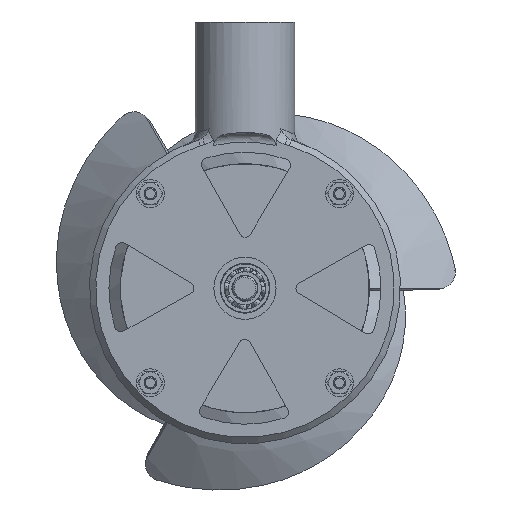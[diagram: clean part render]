
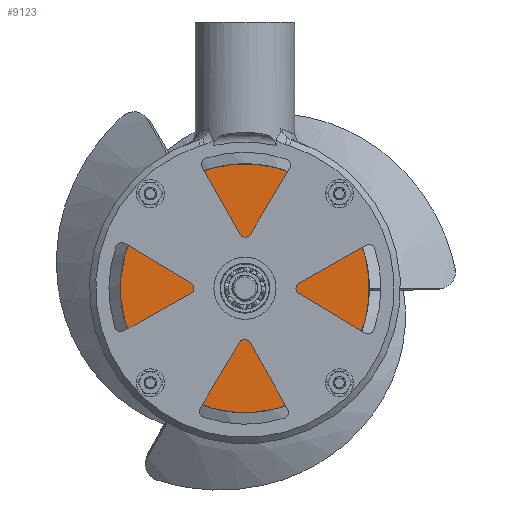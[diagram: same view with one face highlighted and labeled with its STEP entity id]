
A CAD part, front view. The second image highlights one B-rep face of the part: STEP entity #9123.
In plain terms, the highlighted planar face has unit normal (0, -1, 0).
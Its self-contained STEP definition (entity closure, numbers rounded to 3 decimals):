
#617=FACE_BOUND('',#1990,.T.);
#805=PLANE('',#10098);
#1394=FACE_OUTER_BOUND('',#1989,.T.);
#1989=EDGE_LOOP('',(#7841));
#1990=EDGE_LOOP('',(#7842));
#2677=CIRCLE('',#10041,8.);
#2705=CIRCLE('',#10099,40.);
#4542=VERTEX_POINT('',#18835);
#4593=VERTEX_POINT('',#19257);
#5638=EDGE_CURVE('',#4542,#4542,#2677,.T.);
#5719=EDGE_CURVE('',#4593,#4593,#2705,.T.);
#7841=ORIENTED_EDGE('',*,*,#5719,.T.);
#7842=ORIENTED_EDGE('',*,*,#5638,.T.);
#9123=ADVANCED_FACE('',(#1394,#617),#805,.T.);
#10041=AXIS2_PLACEMENT_3D('',#18836,#11885,#11886);
#10098=AXIS2_PLACEMENT_3D('',#19256,#12040,#12041);
#10099=AXIS2_PLACEMENT_3D('',#19258,#12042,#12043);
#11885=DIRECTION('center_axis',(0.,1.,0.));
#11886=DIRECTION('ref_axis',(-0.837,0.,-0.547));
#12040=DIRECTION('center_axis',(0.,-1.,0.));
#12041=DIRECTION('ref_axis',(-1.,0.,0.));
#12042=DIRECTION('center_axis',(0.,-1.,0.));
#12043=DIRECTION('ref_axis',(1.,0.,0.));
#18835=CARTESIAN_POINT('',(25.931,467.764,-14.858));
#18836=CARTESIAN_POINT('Origin',(19.233,467.764,-19.233));
#19256=CARTESIAN_POINT('Origin',(19.233,467.764,-19.233));
#19257=CARTESIAN_POINT('',(-20.767,467.764,-19.233));
#19258=CARTESIAN_POINT('Origin',(19.233,467.764,-19.233));
